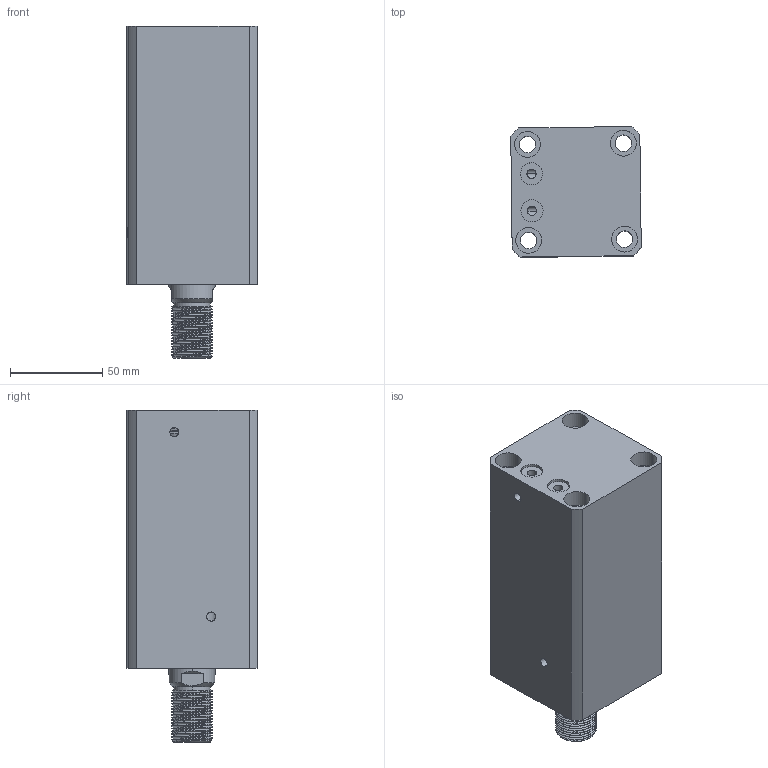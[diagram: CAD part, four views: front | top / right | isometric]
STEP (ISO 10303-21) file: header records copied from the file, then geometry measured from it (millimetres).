
FILE_DESCRIPTION (( 'STEP AP214' ), '1' );
FILE_NAME ('chtb-sdmb40x85w_asm.STEP', '2018-06-07T01:04:03', ( 'Windows' ), ( 'Microsoft' ), 'SwSTEP 2.0', 'SolidWorks 2015', '' );
FILE_SCHEMA (( 'AUTOMOTIVE_DESIGN' ));
Length unit declared in the file: millimetre
Products named in the file (4): CHTB-SDMB40X85NBT; CHTB-SD40X85WHSG; CHTB-SD40QG; chtb-sdmb40x85w_asm
Assembly tree (3 placements, depth 2):
  chtb-sdmb40x85w_asm
    CHTB-SD40QG
    CHTB-SD40X85WHSG
    CHTB-SDMB40X85NBT
Bounding box: 70.74 x 70.74 x 180 mm (x, y, z)
Volume: 581217.5 mm3; surface area: 113433.8 mm2
Topology: 3 solids, 4 shells, 201 faces, 539 edges, 359 vertices
Faces by surface type: cylinder 122, plane 38, bspline 16, torus 14, cone 11
Entity records: 13455 total; most frequent: CARTESIAN_POINT 8586, ORIENTED_EDGE 1066, DIRECTION 904, EDGE_CURVE 533, AXIS2_PLACEMENT_3D 374, VERTEX_POINT 359, EDGE_LOOP 238, FACE_OUTER_BOUND 201
